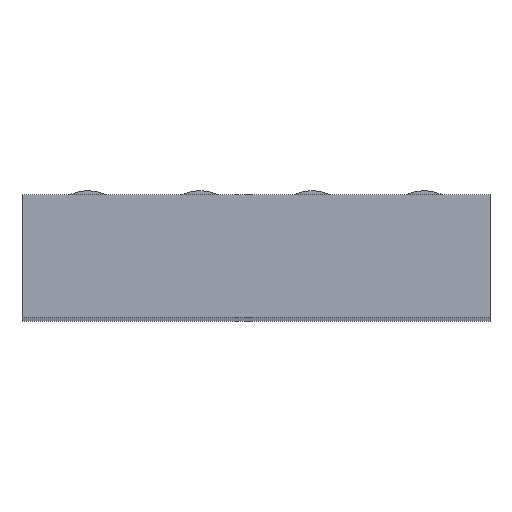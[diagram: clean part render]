
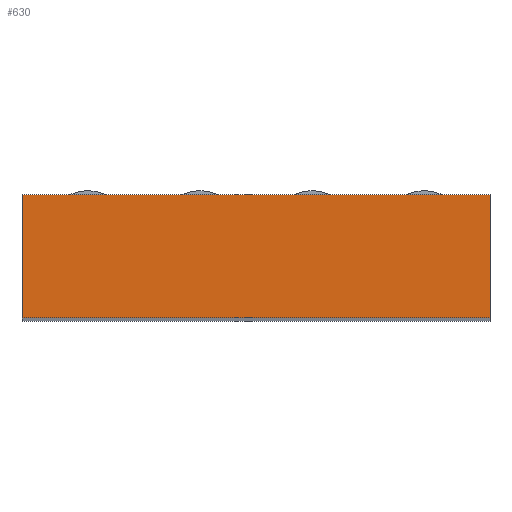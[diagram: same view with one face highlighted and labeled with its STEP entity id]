
A CAD part, top view. The second image highlights one B-rep face of the part: STEP entity #630.
In plain terms, the highlighted planar face has unit normal (0, 0, 1).
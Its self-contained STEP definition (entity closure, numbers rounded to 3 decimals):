
#630=ADVANCED_FACE('',(#697),#696,.T.);
#696=PLANE('',#1359);
#697=FACE_OUTER_BOUND('',#1360,.T.);
#1356=CARTESIAN_POINT('',(-3.42,0.9,71.5));
#1357=DIRECTION('',(0.,0.,1.));
#1358=DIRECTION('',(0.,-1.,0.));
#1359=AXIS2_PLACEMENT_3D('',#1356,#1357,#1358);
#1360=EDGE_LOOP('',(#1686,#1687,#1688,#1689));
#1686=ORIENTED_EDGE('',*,*,#1890,.T.);
#1687=ORIENTED_EDGE('',*,*,#1891,.T.);
#1688=ORIENTED_EDGE('',*,*,#1892,.T.);
#1689=ORIENTED_EDGE('',*,*,#1893,.F.);
#1890=EDGE_CURVE('',#1992,#1993,#1994,.T.);
#1891=EDGE_CURVE('',#1993,#2000,#2001,.T.);
#1892=EDGE_CURVE('',#2000,#2007,#2008,.T.);
#1893=EDGE_CURVE('',#1992,#2007,#2014,.T.);
#1992=VERTEX_POINT('',#2672);
#1993=VERTEX_POINT('',#2673);
#1994=LINE('',#2674,#2675);
#2000=VERTEX_POINT('',#2677);
#2001=LINE('',#2678,#2679);
#2007=VERTEX_POINT('',#2681);
#2008=LINE('',#2682,#2683);
#2014=LINE('',#2685,#2686);
#2672=CARTESIAN_POINT('',(0.,-9.,71.5));
#2673=CARTESIAN_POINT('',(34.2,-9.,71.5));
#2674=CARTESIAN_POINT('',(0.,-9.,71.5));
#2675=VECTOR('',#2676,34.2);
#2676=DIRECTION('',(1.,0.,0.));
#2677=CARTESIAN_POINT('',(34.2,0.,71.5));
#2678=CARTESIAN_POINT('',(34.2,-9.,71.5));
#2679=VECTOR('',#2680,9.);
#2680=DIRECTION('',(0.,1.,0.));
#2681=CARTESIAN_POINT('',(0.,0.,71.5));
#2682=CARTESIAN_POINT('',(34.2,0.,71.5));
#2683=VECTOR('',#2684,34.2);
#2684=DIRECTION('',(-1.,0.,0.));
#2685=CARTESIAN_POINT('',(0.,-9.,71.5));
#2686=VECTOR('',#2687,9.);
#2687=DIRECTION('',(0.,1.,0.));
